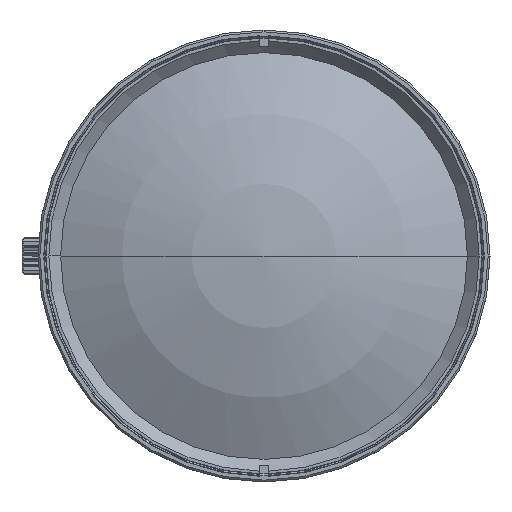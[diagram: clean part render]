
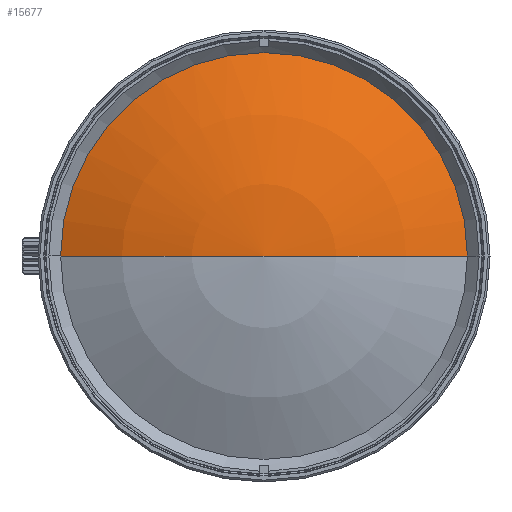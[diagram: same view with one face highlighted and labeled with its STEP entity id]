
A CAD part, left-side view. The second image highlights one B-rep face of the part: STEP entity #15677.
In plain terms, the highlighted spherical face has radius 48 mm.
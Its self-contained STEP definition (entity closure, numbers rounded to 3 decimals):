
#15518=CARTESIAN_POINT('',(-19.414,0.,0.));
#15519=DIRECTION('',(1.,0.,0.));
#15520=DIRECTION('',(0.,1.,0.));
#15521=AXIS2_PLACEMENT_3D('',#15518,#15519,#15520);
#15523=CARTESIAN_POINT('',(23.17,0.,0.));
#15524=DIRECTION('',(0.,0.,-1.));
#15525=DIRECTION('',(-0.887,-0.461,0.));
#15526=AXIS2_PLACEMENT_3D('',#15523,#15524,#15525);
#15528=CARTESIAN_POINT('',(23.17,0.,0.));
#15529=DIRECTION('',(0.,0.,-1.));
#15530=DIRECTION('',(-1.,0.,0.));
#15531=AXIS2_PLACEMENT_3D('',#15528,#15529,#15530);
#15632=CARTESIAN_POINT('',(-19.414,22.15,0.));
#15633=CARTESIAN_POINT('',(-19.414,-22.15,0.));
#15634=VERTEX_POINT('',#15632);
#15635=VERTEX_POINT('',#15633);
#15636=CARTESIAN_POINT('',(-24.83,0.,0.));
#15637=VERTEX_POINT('',#15636);
#15664=CARTESIAN_POINT('',(23.17,0.,0.));
#15665=DIRECTION('',(1.,0.,0.));
#15666=DIRECTION('',(0.,-1.,0.));
#15667=AXIS2_PLACEMENT_3D('',#15664,#15665,#15666);
#15668=SPHERICAL_SURFACE('',#15667,48.);
#15670=ORIENTED_EDGE('',*,*,#15669,.T.);
#15672=ORIENTED_EDGE('',*,*,#15671,.T.);
#15674=ORIENTED_EDGE('',*,*,#15673,.T.);
#15675=EDGE_LOOP('',(#15670,#15672,#15674));
#15676=FACE_OUTER_BOUND('',#15675,.F.);
#15677=ADVANCED_FACE('',(#15676),#15668,.T.);
#15522=CIRCLE('',#15521,22.15);
#15527=CIRCLE('',#15526,48.);
#15532=CIRCLE('',#15531,48.);
#15669=EDGE_CURVE('',#15634,#15635,#15522,.T.);
#15671=EDGE_CURVE('',#15635,#15637,#15527,.T.);
#15673=EDGE_CURVE('',#15637,#15634,#15532,.T.);
